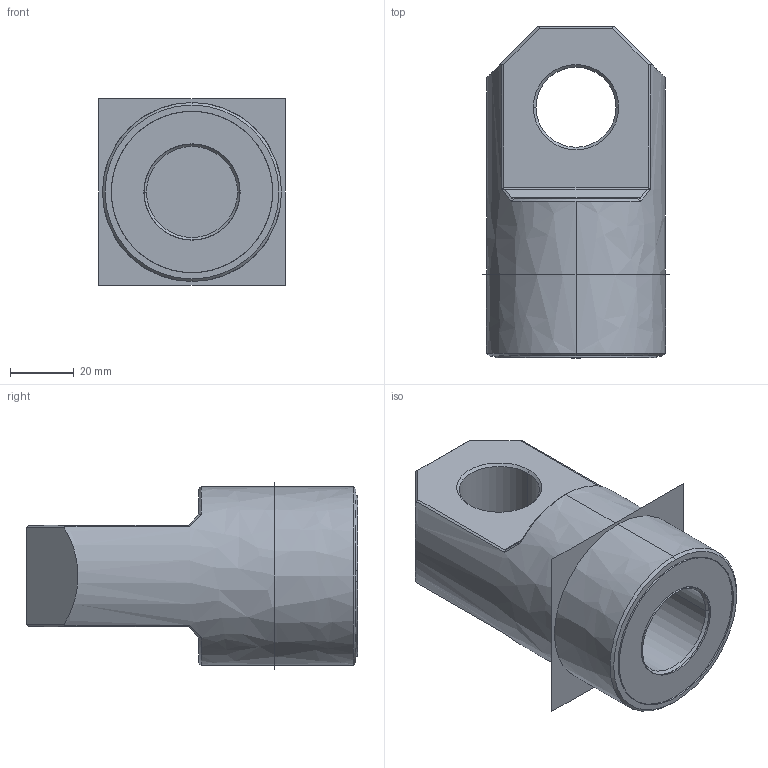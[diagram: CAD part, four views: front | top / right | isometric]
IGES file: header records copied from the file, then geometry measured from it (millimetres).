
Start section:  PTC IGES file: bss5914d.igs
Global section: file name: bss5914d.igs; native system: Creo Parametric by PTC Inc.; preprocessor: 2015290; author: mike.ward; organization: Unknown; date: 20161213.152437; units: millimetre
Bounding box: 58.24 x 103.8 x 58.24 mm (x, y, z)
Volume: 163515.2 mm3; surface area: 52523.9 mm2
Topology: 1 solids, 3 shells, 68 faces, 200 edges, 157 vertices
Faces by surface type: bspline 42, revolution 26
